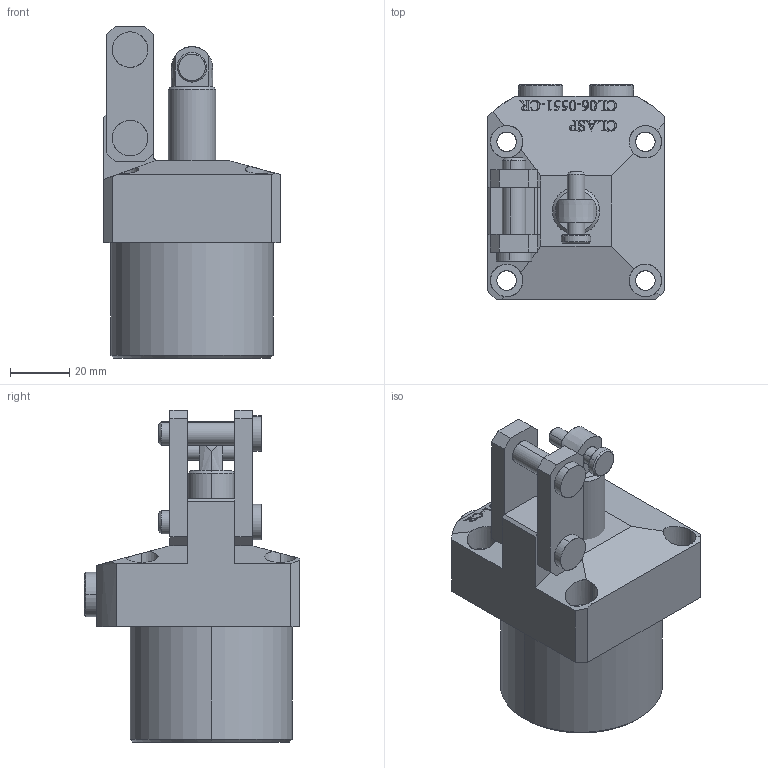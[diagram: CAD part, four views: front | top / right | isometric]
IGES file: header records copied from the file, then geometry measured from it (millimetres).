
Start section: SolidWorks IGES file using analytic representation for surfaces
Global section: file name: D:\karuppas\Clasp\3D model\Link clamp cylinder\CL06-0551-CR\CL06-0551-CR.IGS; native system: SolidWorks 2017; preprocessor: SolidWorks 2017; author: pc; date: 220717.215514; units: millimetre
Bounding box: 60 x 73 x 112.5 mm (x, y, z)
Surface area: 37360.4 mm2 (no closed solid volume)
Topology: 0 solids, 0 shells, 497 faces, 7995 edges, 7991 vertices
Faces by surface type: bspline 394, revolution 103
